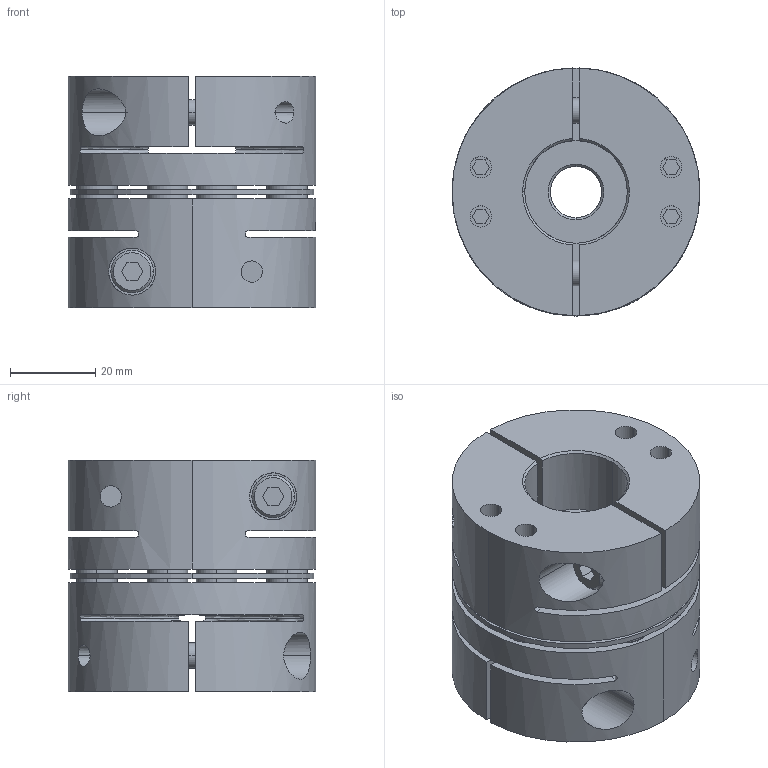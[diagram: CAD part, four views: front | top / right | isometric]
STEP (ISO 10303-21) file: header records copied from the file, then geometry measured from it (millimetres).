
FILE_DESCRIPTION((''),'2;1');
FILE_NAME('TAS-58C-12×24.stp','2022-11-14T22:07:29',(''),(''),'AutoCAD STEP 2000i','AutoCAD 2000i',', , ');
FILE_SCHEMA(('CONFIG_CONTROL_DESIGN'));
Length unit declared in the file: millimetre
Products named in the file (6): TAS-58C-12×22; 忣兜1; TA58C-22; CAP-M6×20; TA58C-12-2; TA58C-12
Assembly tree (7 placements, depth 3):
  TAS-58C-12×22
    忣兜1
    TA58C-22
      CAP-M6×20
    TA58C-12-2
      CAP-M6×20
    TA58C-12
      CAP-M6×20
Bounding box: 58 x 58 x 54.25 mm (x, y, z)
Volume: 107389.9 mm3; surface area: 41774.9 mm2
Topology: 1 solids, 1 shells, 360 faces, 900 edges, 628 vertices
Faces by surface type: plane 160, cylinder 148, cone 36, bspline 16
Entity records: 12981 total; most frequent: CARTESIAN_POINT 4008, DIRECTION 1922, ORIENTED_EDGE 1720, EDGE_CURVE 860, AXIS2_PLACEMENT_3D 732, VERTEX_POINT 564, EDGE_LOOP 464, VECTOR 458
